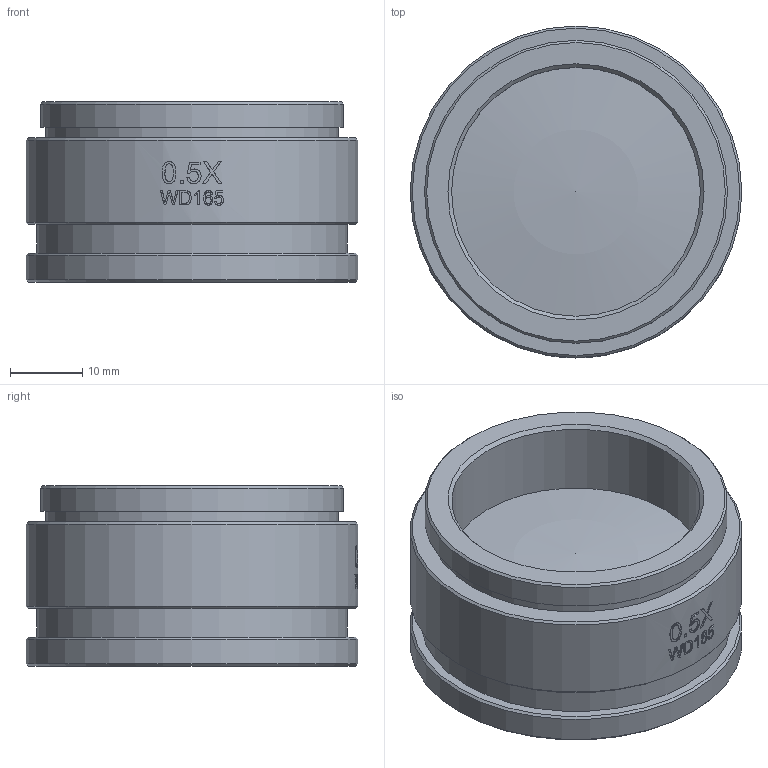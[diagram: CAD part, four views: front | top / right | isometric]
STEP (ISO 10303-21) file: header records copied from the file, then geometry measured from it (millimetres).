
FILE_DESCRIPTION(('STEP AP214'),'1');
FILE_NAME('TG-0.5K.stp','2026-03-26T06:16:33',(' '),(' '),'Spatial InterOp 3D',' ',' ');
FILE_SCHEMA(('AUTOMOTIVE_DESIGN { 1 0 10303 214 1 1 1 1 }'));
Length unit declared in the file: metre
Products named in the file (2): TG-0.5K; Component1
Assembly tree (1 placements, depth 2):
  TG-0.5K
    Component1
Bounding box: 46 x 46 x 25 mm (x, y, z)
Volume: 22474.8 mm3; surface area: 10127.3 mm2
Topology: 1 solids, 2 shells, 166 faces, 432 edges, 288 vertices
Faces by surface type: plane 77, extrusion 64, cylinder 15, cone 7, sphere 3
Full cylindrical faces by diameter (mm): 34.5 x1, 35.5 x1, 36.5 x2, 39.25 x1, 40 x1, 40.5 x2, 42 x1, 43 x1, 46 x2
Entity records: 7212 total; most frequent: CARTESIAN_POINT 2076, ORIENTED_EDGE 804, DIRECTION 619, EDGE_CURVE 402, VERTEX_POINT 280, VECTOR 253, EDGE_LOOP 208, B_SPLINE_CURVE_WITH_KNOTS 198
